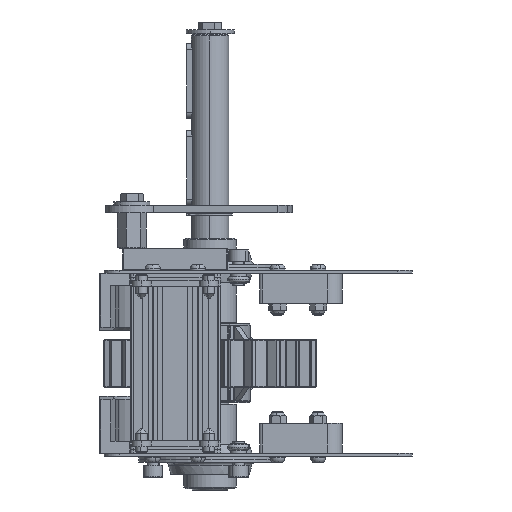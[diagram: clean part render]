
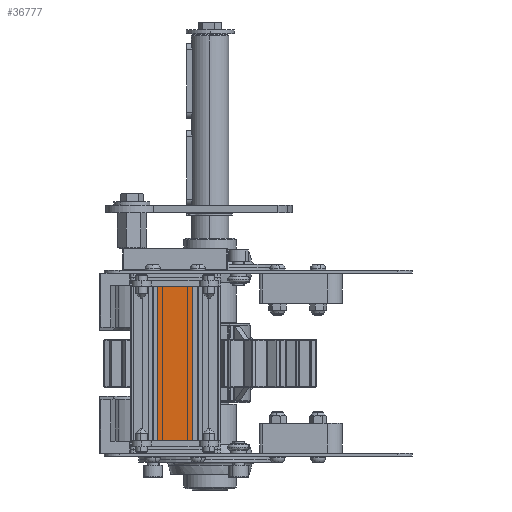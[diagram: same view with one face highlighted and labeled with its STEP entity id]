
A CAD part, left-side view. The second image highlights one B-rep face of the part: STEP entity #36777.
In plain terms, the highlighted planar face has unit normal (-1, 0, 0).
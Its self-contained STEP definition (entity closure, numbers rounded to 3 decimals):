
#2849 = DIRECTION ( 'NONE',  ( 0., -1., 0. ) ) ;
#4562 = EDGE_CURVE ( 'NONE', #41371, #50995, #71760, .T. ) ;
#10239 = DIRECTION ( 'NONE',  ( 0., 0., -1. ) ) ;
#10743 = EDGE_CURVE ( 'NONE', #50995, #34867, #66261, .T. ) ;
#10943 = ORIENTED_EDGE ( 'NONE', *, *, #17831, .F. ) ;
#11519 = CARTESIAN_POINT ( 'NONE',  ( -15., 26.85, 0. ) ) ;
#14727 = PLANE ( 'NONE',  #33182 ) ;
#17831 = EDGE_CURVE ( 'NONE', #75619, #34867, #68055, .T. ) ;
#18071 = ORIENTED_EDGE ( 'NONE', *, *, #10743, .T. ) ;
#18648 = CARTESIAN_POINT ( 'NONE',  ( -15., 3.15, 0. ) ) ;
#20925 = DIRECTION ( 'NONE',  ( 1., 0., 0. ) ) ;
#33182 = AXIS2_PLACEMENT_3D ( 'NONE', #69146, #20925, #63314 ) ;
#34423 = CARTESIAN_POINT ( 'NONE',  ( -15., 3.15, 103. ) ) ;
#34708 = CARTESIAN_POINT ( 'NONE',  ( -15., 26.85, 103. ) ) ;
#34774 = CARTESIAN_POINT ( 'NONE',  ( -15., 3.15, 103. ) ) ;
#34867 = VERTEX_POINT ( 'NONE', #18648 ) ;
#36777 = ADVANCED_FACE ( 'NONE', ( #53421 ), #14727, .F. ) ;
#37947 = DIRECTION ( 'NONE',  ( 0., 0., -1. ) ) ;
#39526 = DIRECTION ( 'NONE',  ( 0., -1., 0. ) ) ;
#39538 = VECTOR ( 'NONE', #37947, 1000. ) ;
#41371 = VERTEX_POINT ( 'NONE', #34708 ) ;
#42572 = EDGE_CURVE ( 'NONE', #41371, #75619, #56493, .T. ) ;
#50995 = VERTEX_POINT ( 'NONE', #11519 ) ;
#51750 = CARTESIAN_POINT ( 'NONE',  ( -15., 26.85, 0. ) ) ;
#51962 = VECTOR ( 'NONE', #10239, 1000. ) ;
#53421 = FACE_OUTER_BOUND ( 'NONE', #65205, .T. ) ;
#54592 = VECTOR ( 'NONE', #2849, 1000. ) ;
#56493 = LINE ( 'NONE', #74947, #54592 ) ;
#57797 = ORIENTED_EDGE ( 'NONE', *, *, #4562, .T. ) ;
#63314 = DIRECTION ( 'NONE',  ( 0., 0., -1. ) ) ;
#65205 = EDGE_LOOP ( 'NONE', ( #18071, #10943, #73157, #57797 ) ) ;
#66261 = LINE ( 'NONE', #51750, #68176 ) ;
#68055 = LINE ( 'NONE', #34423, #51962 ) ;
#68176 = VECTOR ( 'NONE', #39526, 1000. ) ;
#69146 = CARTESIAN_POINT ( 'NONE',  ( -15., 26.85, 103. ) ) ;
#71760 = LINE ( 'NONE', #74195, #39538 ) ;
#73157 = ORIENTED_EDGE ( 'NONE', *, *, #42572, .F. ) ;
#74195 = CARTESIAN_POINT ( 'NONE',  ( -15., 26.85, 103. ) ) ;
#74947 = CARTESIAN_POINT ( 'NONE',  ( -15., 26.85, 103. ) ) ;
#75619 = VERTEX_POINT ( 'NONE', #34774 ) ;
